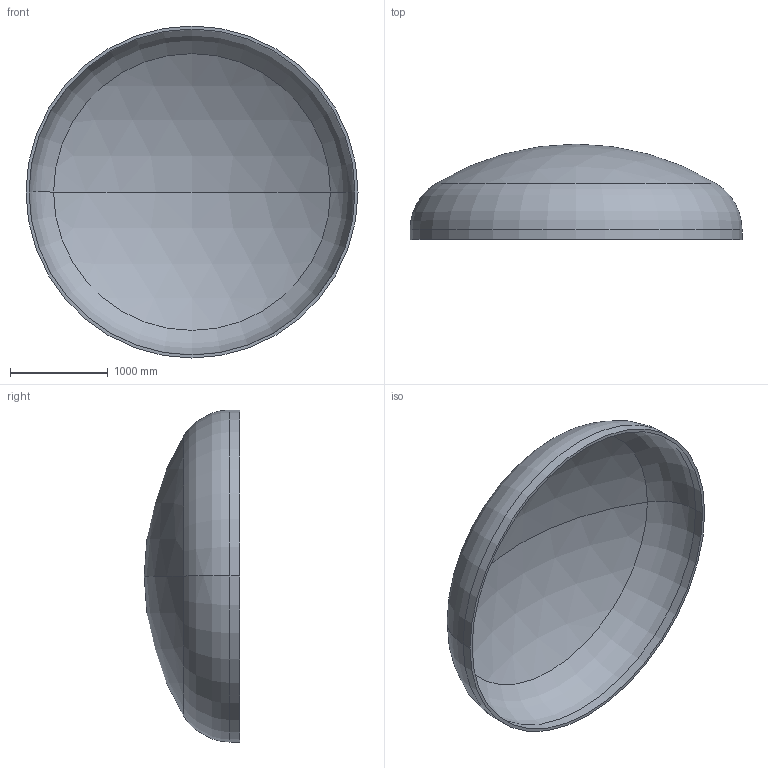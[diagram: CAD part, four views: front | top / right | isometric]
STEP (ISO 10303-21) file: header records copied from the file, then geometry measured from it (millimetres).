
FILE_DESCRIPTION (( 'STEP AP203' ), '1' );
FILE_NAME ('DIN 28013 Korbbogenform_-_Boden DIN 28013 - 3400 x 100 - I - s=31.step', '2016-07-01T19:23:18', ( '' ), ( '' ), 'SwSTEP 2.0', 'SolidWorks 2013', '' );
FILE_SCHEMA (( 'CONFIG_CONTROL_DESIGN' ));
Length unit declared in the file: millimetre
Products named in the file (1): DIN 28013 Korbbogenform_-_Boden DIN 28013 - 3400 x 100 - I - s=31
Bounding box: 3400 x 977.69 x 3400 mm (x, y, z)
Volume: 418152426.2 mm3; surface area: 27307683.4 mm2
Topology: 1 solids, 1 shells, 13 faces, 24 edges, 14 vertices
Faces by surface type: torus 4, cylinder 4, sphere 4, plane 1
Entity records: 407 total; most frequent: DIRECTION 72, CARTESIAN_POINT 52, ORIENTED_EDGE 48, AXIS2_PLACEMENT_3D 34, EDGE_CURVE 24, CIRCLE 20, VERTEX_POINT 14, EDGE_LOOP 14
